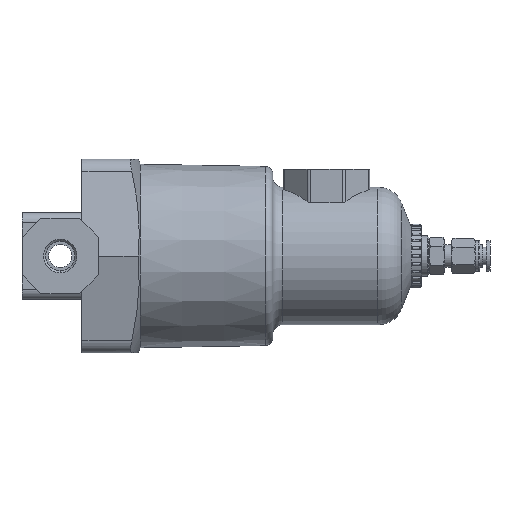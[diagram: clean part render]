
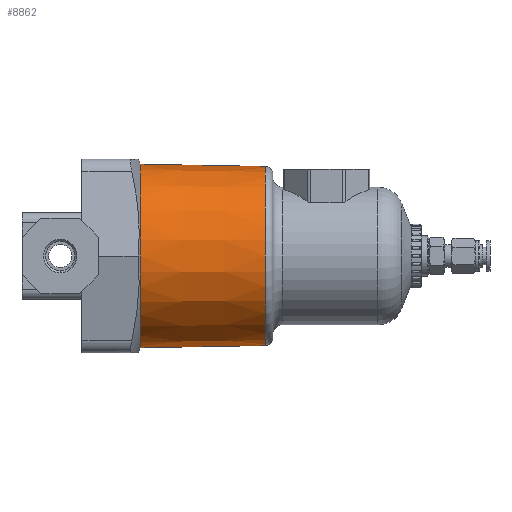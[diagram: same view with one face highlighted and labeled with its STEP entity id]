
A CAD part, left-side view. The second image highlights one B-rep face of the part: STEP entity #8862.
In plain terms, the highlighted conical face has half-angle 0.99 degrees and reference radius 36 mm.
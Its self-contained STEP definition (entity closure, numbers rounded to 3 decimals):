
#277 = DIRECTION ( 'NONE',  ( 0., 1., 0. ) ) ;
#291 = VECTOR ( 'NONE', #2186, 1000. ) ;
#679 = CONICAL_SURFACE ( 'NONE', #3369, 36., 0.017 ) ;
#1131 = DIRECTION ( 'NONE',  ( 0., -1., 0. ) ) ;
#1472 = CARTESIAN_POINT ( 'NONE',  ( 0., -31.4, -36. ) ) ;
#1515 = ORIENTED_EDGE ( 'NONE', *, *, #8002, .T. ) ;
#1997 = DIRECTION ( 'NONE',  ( 0., 1., 0.017 ) ) ;
#2186 = DIRECTION ( 'NONE',  ( 0., 1., -0.017 ) ) ;
#2446 = EDGE_CURVE ( 'NONE', #5991, #4474, #5859, .T. ) ;
#2911 = FACE_OUTER_BOUND ( 'NONE', #4079, .T. ) ;
#3369 = AXIS2_PLACEMENT_3D ( 'NONE', #7595, #277, #10408 ) ;
#3998 = CIRCLE ( 'NONE', #6108, 36. ) ;
#4079 = EDGE_LOOP ( 'NONE', ( #9974, #6514, #1515, #10897 ) ) ;
#4474 = VERTEX_POINT ( 'NONE', #11110 ) ;
#5154 = CARTESIAN_POINT ( 'NONE',  ( 0., -80.552, 35.151 ) ) ;
#5236 = CARTESIAN_POINT ( 'NONE',  ( 0., -31.4, 36. ) ) ;
#5245 = CARTESIAN_POINT ( 'NONE',  ( 0., -80.552, 0. ) ) ;
#5859 = LINE ( 'NONE', #1472, #291 ) ;
#5991 = VERTEX_POINT ( 'NONE', #7666 ) ;
#6022 = AXIS2_PLACEMENT_3D ( 'NONE', #5245, #8036, #7929 ) ;
#6108 = AXIS2_PLACEMENT_3D ( 'NONE', #8331, #1131, #9230 ) ;
#6447 = VECTOR ( 'NONE', #1997, 1000. ) ;
#6514 = ORIENTED_EDGE ( 'NONE', *, *, #6839, .F. ) ;
#6550 = LINE ( 'NONE', #10905, #6447 ) ;
#6839 = EDGE_CURVE ( 'NONE', #11421, #5991, #8490, .T. ) ;
#7595 = CARTESIAN_POINT ( 'NONE',  ( 0., -31.4, 0. ) ) ;
#7666 = CARTESIAN_POINT ( 'NONE',  ( 0., -80.552, -35.151 ) ) ;
#7929 = DIRECTION ( 'NONE',  ( 0., 0., -1. ) ) ;
#8002 = EDGE_CURVE ( 'NONE', #11421, #10631, #6550, .T. ) ;
#8036 = DIRECTION ( 'NONE',  ( 0., -1., 0. ) ) ;
#8331 = CARTESIAN_POINT ( 'NONE',  ( 0., -31.4, 0. ) ) ;
#8490 = CIRCLE ( 'NONE', #6022, 35.151 ) ;
#8862 = ADVANCED_FACE ( 'NONE', ( #2911 ), #679, .T. ) ;
#9230 = DIRECTION ( 'NONE',  ( 0., 0., -1. ) ) ;
#9761 = EDGE_CURVE ( 'NONE', #10631, #4474, #3998, .T. ) ;
#9974 = ORIENTED_EDGE ( 'NONE', *, *, #2446, .F. ) ;
#10408 = DIRECTION ( 'NONE',  ( 0., 0., 1. ) ) ;
#10631 = VERTEX_POINT ( 'NONE', #5236 ) ;
#10897 = ORIENTED_EDGE ( 'NONE', *, *, #9761, .T. ) ;
#10905 = CARTESIAN_POINT ( 'NONE',  ( 0., -31.4, 36. ) ) ;
#11110 = CARTESIAN_POINT ( 'NONE',  ( 0., -31.4, -36. ) ) ;
#11421 = VERTEX_POINT ( 'NONE', #5154 ) ;
